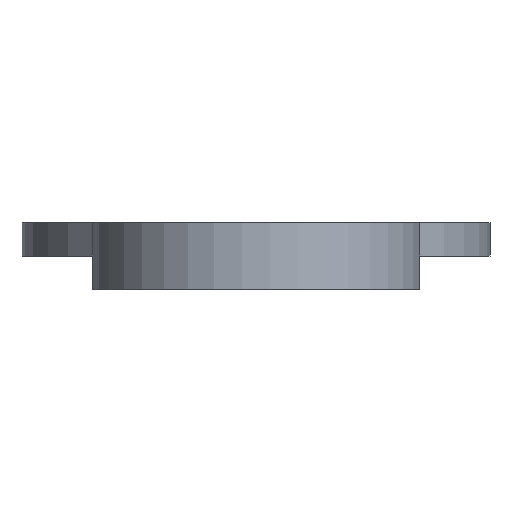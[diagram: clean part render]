
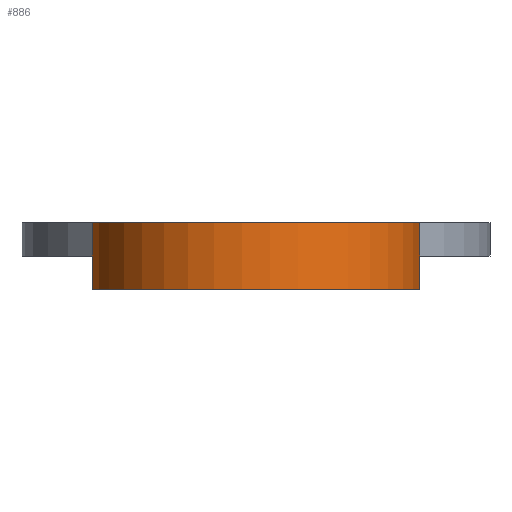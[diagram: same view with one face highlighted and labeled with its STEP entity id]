
A CAD part, front view. The second image highlights one B-rep face of the part: STEP entity #886.
In plain terms, the highlighted cylindrical face has radius 4.9 mm (diameter 9.8 mm), a partial arc.
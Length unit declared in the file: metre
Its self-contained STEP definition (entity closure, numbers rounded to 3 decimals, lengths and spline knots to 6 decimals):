
#67=CIRCLE('',#1014,0.0049);
#68=CIRCLE('',#1015,0.0049);
#98=ORIENTED_EDGE('',*,*,#350,.F.);
#99=ORIENTED_EDGE('',*,*,#351,.T.);
#100=ORIENTED_EDGE('',*,*,#352,.T.);
#101=ORIENTED_EDGE('',*,*,#353,.F.);
#350=EDGE_CURVE('',#476,#477,#560,.T.);
#351=EDGE_CURVE('',#476,#478,#67,.T.);
#352=EDGE_CURVE('',#478,#479,#561,.T.);
#353=EDGE_CURVE('',#477,#479,#68,.T.);
#476=VERTEX_POINT('',#1378);
#477=VERTEX_POINT('',#1379);
#478=VERTEX_POINT('',#1381);
#479=VERTEX_POINT('',#1383);
#560=LINE('',#1377,#650);
#561=LINE('',#1382,#651);
#650=VECTOR('',#1107,1.);
#651=VECTOR('',#1110,1.);
#740=EDGE_LOOP('',(#98,#99,#100,#101));
#806=FACE_BOUND('',#740,.T.);
#872=CYLINDRICAL_SURFACE('',#1013,0.0049);
#886=ADVANCED_FACE('',(#806),#872,.T.);
#1013=AXIS2_PLACEMENT_3D('',#1376,#1105,#1106);
#1014=AXIS2_PLACEMENT_3D('',#1380,#1108,#1109);
#1015=AXIS2_PLACEMENT_3D('',#1384,#1111,#1112);
#1105=DIRECTION('',(0.,0.,-1.));
#1106=DIRECTION('',(-1.,0.,0.));
#1107=DIRECTION('',(0.,0.,1.));
#1108=DIRECTION('',(0.,0.,1.));
#1109=DIRECTION('',(1.,0.,0.));
#1110=DIRECTION('',(0.,0.,1.));
#1111=DIRECTION('',(0.,0.,1.));
#1112=DIRECTION('',(1.,0.,0.));
#1376=CARTESIAN_POINT('',(0.,0.,0.025));
#1377=CARTESIAN_POINT('',(-0.003,0.003874,0.024));
#1378=CARTESIAN_POINT('',(-0.003,0.003874,0.023));
#1379=CARTESIAN_POINT('',(-0.003,0.003874,0.025));
#1380=CARTESIAN_POINT('',(0.,0.,0.023));
#1381=CARTESIAN_POINT('',(0.003,0.003874,0.023));
#1382=CARTESIAN_POINT('',(0.003,0.003874,0.024));
#1383=CARTESIAN_POINT('',(0.003,0.003874,0.025));
#1384=CARTESIAN_POINT('',(0.,0.,0.025));
